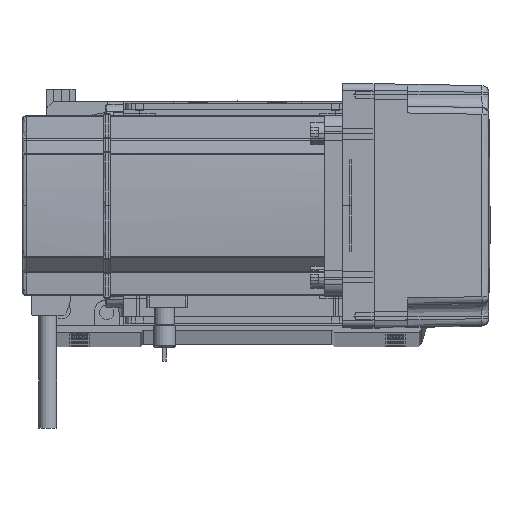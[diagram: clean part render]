
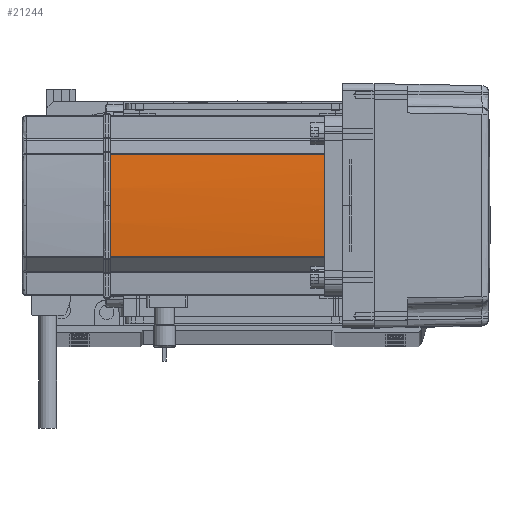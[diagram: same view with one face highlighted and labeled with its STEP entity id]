
A CAD part, top view. The second image highlights one B-rep face of the part: STEP entity #21244.
In plain terms, the highlighted cylindrical face has radius 270 mm (diameter 540 mm), a partial arc.
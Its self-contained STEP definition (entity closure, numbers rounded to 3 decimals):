
#616 = LINE ( 'NONE', #8415, #6362 ) ;
#2294 = CARTESIAN_POINT ( 'NONE',  ( 230., 0., 39. ) ) ;
#2473 = AXIS2_PLACEMENT_3D ( 'NONE', #53881, #16567, #28107 ) ;
#4993 = CYLINDRICAL_SURFACE ( 'NONE', #2473, 270. ) ;
#5770 = AXIS2_PLACEMENT_3D ( 'NONE', #2294, #38257, #6677 ) ;
#6362 = VECTOR ( 'NONE', #13313, 1000. ) ;
#6677 = DIRECTION ( 'NONE',  ( 1., 0., 0. ) ) ;
#8415 = CARTESIAN_POINT ( 'NONE',  ( -39.042, -22.724, 0. ) ) ;
#11702 = VECTOR ( 'NONE', #15989, 1000. ) ;
#12582 = DIRECTION ( 'NONE',  ( 1., 0., 0. ) ) ;
#13313 = DIRECTION ( 'NONE',  ( 0., 0., 1. ) ) ;
#15989 = DIRECTION ( 'NONE',  ( 0., 0., -1. ) ) ;
#16567 = DIRECTION ( 'NONE',  ( 0., 0., 1. ) ) ;
#16845 = CIRCLE ( 'NONE', #5770, 270. ) ;
#17266 = ORIENTED_EDGE ( 'NONE', *, *, #43109, .F. ) ;
#17582 = EDGE_CURVE ( 'NONE', #49894, #38109, #616, .T. ) ;
#21244 = ADVANCED_FACE ( 'NONE', ( #50320 ), #4993, .T. ) ;
#21257 = CIRCLE ( 'NONE', #54223, 270. ) ;
#24818 = VERTEX_POINT ( 'NONE', #29028 ) ;
#25912 = VERTEX_POINT ( 'NONE', #44035 ) ;
#26998 = CARTESIAN_POINT ( 'NONE',  ( -39.042, -22.724, 39. ) ) ;
#28107 = DIRECTION ( 'NONE',  ( 1., 0., 0. ) ) ;
#29028 = CARTESIAN_POINT ( 'NONE',  ( -39.042, 22.724, 39. ) ) ;
#33076 = EDGE_CURVE ( 'NONE', #38109, #56864, #21257, .T. ) ;
#34328 = CARTESIAN_POINT ( 'NONE',  ( -40., 0., 134. ) ) ;
#38109 = VERTEX_POINT ( 'NONE', #66140 ) ;
#38257 = DIRECTION ( 'NONE',  ( 0., 0., -1. ) ) ;
#38844 = DIRECTION ( 'NONE',  ( 0., 0., -1. ) ) ;
#42076 = AXIS2_PLACEMENT_3D ( 'NONE', #67483, #51636, #62175 ) ;
#43109 = EDGE_CURVE ( 'NONE', #49894, #24818, #16845, .T. ) ;
#44035 = CARTESIAN_POINT ( 'NONE',  ( -39.042, 22.724, 134. ) ) ;
#47475 = EDGE_LOOP ( 'NONE', ( #60829, #48234, #51102, #17266, #49232 ) ) ;
#48234 = ORIENTED_EDGE ( 'NONE', *, *, #62010, .T. ) ;
#49232 = ORIENTED_EDGE ( 'NONE', *, *, #17582, .T. ) ;
#49894 = VERTEX_POINT ( 'NONE', #26998 ) ;
#50320 = FACE_OUTER_BOUND ( 'NONE', #47475, .T. ) ;
#51102 = ORIENTED_EDGE ( 'NONE', *, *, #62846, .T. ) ;
#51636 = DIRECTION ( 'NONE',  ( 0., 0., -1. ) ) ;
#52001 = CIRCLE ( 'NONE', #42076, 270. ) ;
#53881 = CARTESIAN_POINT ( 'NONE',  ( 230., 0., 0. ) ) ;
#54223 = AXIS2_PLACEMENT_3D ( 'NONE', #59741, #38844, #12582 ) ;
#56864 = VERTEX_POINT ( 'NONE', #34328 ) ;
#59741 = CARTESIAN_POINT ( 'NONE',  ( 230., 0., 134. ) ) ;
#60829 = ORIENTED_EDGE ( 'NONE', *, *, #33076, .T. ) ;
#62010 = EDGE_CURVE ( 'NONE', #56864, #25912, #52001, .T. ) ;
#62175 = DIRECTION ( 'NONE',  ( 1., 0., 0. ) ) ;
#62846 = EDGE_CURVE ( 'NONE', #25912, #24818, #67707, .T. ) ;
#66140 = CARTESIAN_POINT ( 'NONE',  ( -39.042, -22.724, 134. ) ) ;
#67483 = CARTESIAN_POINT ( 'NONE',  ( 230., 0., 134. ) ) ;
#67707 = LINE ( 'NONE', #67989, #11702 ) ;
#67989 = CARTESIAN_POINT ( 'NONE',  ( -39.042, 22.724, 0. ) ) ;
